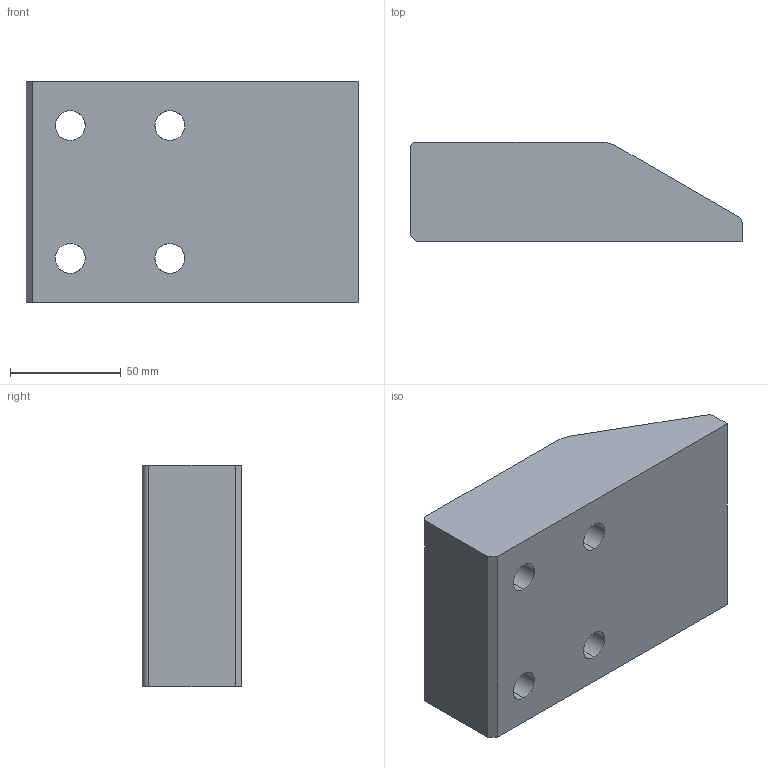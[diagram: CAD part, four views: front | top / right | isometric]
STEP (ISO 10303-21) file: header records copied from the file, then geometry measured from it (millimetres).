
FILE_DESCRIPTION(('CATIA V5 STEP Exchange'),'2;1');
FILE_NAME('C:\Users\Raffaele\Desktop\3D X SITO CF\A935\GSB_OILLESS_G2290110015045\STEP-2.03\A935-10015045.stp','2019-07-12T07:08:11+00:00',('none'),('none'),'CATIA Version 5 Release 20 GA (IN-10)','CATIA V5 STEP AP203','none');
FILE_SCHEMA(('CONFIG_CONTROL_DESIGN'));
Length unit declared in the file: millimetre
Products named in the file (1): A935-10015045
Bounding box: 150 x 45 x 100 mm (x, y, z)
Volume: 523441.7 mm3; surface area: 56145.6 mm2
Topology: 1 solids, 1 shells, 39 faces, 131 edges, 98 vertices
Faces by surface type: cylinder 19, plane 12, torus 8
Entity records: 1691 total; most frequent: CARTESIAN_POINT 493, ORIENTED_EDGE 262, DIRECTION 193, EDGE_CURVE 131, AXIS2_PLACEMENT_3D 118, VERTEX_POINT 98, CIRCLE 78, EDGE_LOOP 51
